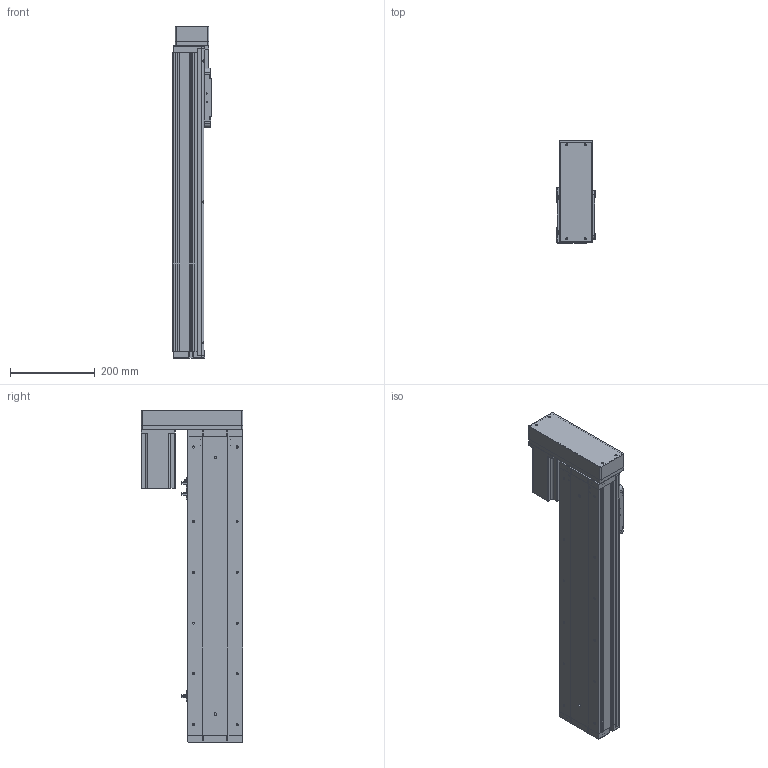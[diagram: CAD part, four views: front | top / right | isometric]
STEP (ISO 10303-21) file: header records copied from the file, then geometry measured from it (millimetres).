
FILE_DESCRIPTION (( 'STEP AP214' ), '1' );
FILE_NAME ('KSD130S-P2010-ML-CR-S500.STEP', '2019-09-24T06:09:16', ( '微软用户' ), ( '微软中国' ), 'SwSTEP 2.0', 'SolidWorks 2014', '' );
FILE_SCHEMA (( 'AUTOMOTIVE_DESIGN' ));
Length unit declared in the file: millimetre
Products named in the file (14): 台达ECMA－C20807AS伺服电机; 130宽模组马达安装板连板左右折丝杆; 感应片130宽全封闭; U倰嫖萇EEㄜSX672; 130遵裔啣揤啣1; 130宽盖板全封闭-500行程; 130宽滚珠螺姆安装板1防护罩; 130宽滚珠螺姆安装板1; 130宽侧板全封闭-500行程; 130宽全封闭马达安装板丝杠; 130宽全封闭端盖丝杠; 130宽模组保护罩左右折; 130宽底板全封闭丝杠-500行程; KSD130S-P2010-ML-CR-S500
Assembly tree (17 placements, depth 2):
  KSD130S-P2010-ML-CR-S500
    130宽底板全封闭丝杠-500行程
    130宽全封闭端盖丝杠
    130宽全封闭马达安装板丝杠
    130宽侧板全封闭-500行程  x2
    130宽滚珠螺姆安装板1
    130宽滚珠螺姆安装板1防护罩
    130宽盖板全封闭-500行程
    130遵裔啣揤啣1  x2
    U倰嫖萇EEㄜSX672  x3
    感应片130宽全封闭
    130宽模组马达安装板连板左右折丝杆
    台达ECMA－C20807AS伺服电机
    130宽模组保护罩左右折
Bounding box: 90 x 240 x 784.5 mm (x, y, z)
Volume: 3283923.1 mm3; surface area: 1010810.5 mm2
Topology: 18 solids, 18 shells, 1438 faces, 3920 edges, 2477 vertices
Faces by surface type: cylinder 628, plane 611, cone 199
Entity records: 43530 total; most frequent: DIRECTION 6623, CARTESIAN_POINT 6545, ORIENTED_EDGE 6150, EDGE_CURVE 3075, AXIS2_PLACEMENT_3D 2371, VERTEX_POINT 2007, VECTOR 1881, LINE 1881
